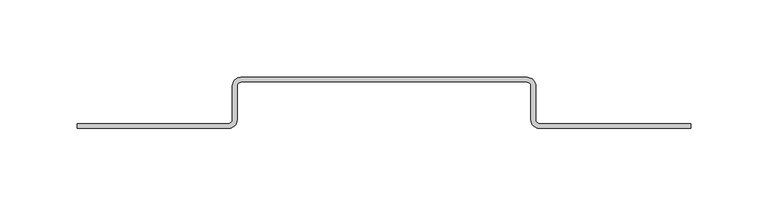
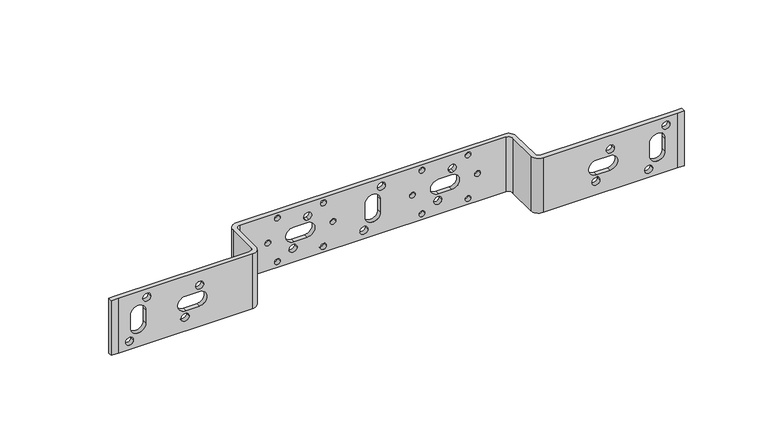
"""IFC4 building model written with IfcOpenShell, lengths in millimetres: proxy geometry, REHAU_RAUTITAN_Bracket O 100 : REHAU_RAUTITAN_Bracket O 100."""

from ifc_helpers import new_model, si_unit, frame, origin, place, context, project, spatial, polyline, circle_curve, source, transform, mapped, element, save
from ifc_brep_helpers import plane_surface, cylinder_surface, revolved_surface, advanced_brep


def mechanical_equipment_b03999f3(model_context):
    return source(origin(), model_context, "Body", "AdvancedBrep", [
        advanced_brep(
        [(92.75, 18.0, 20.0), (-92.25, 18.0, 20.0), (-97.75, 12.5, 20.0), (-97.75, -9.0, 20.0), (-100.75, -12.0, 20.0), (-193.0, -12.0, 20.0), (-198.0, -12.0, 20.0), (-198.0, -15.0, 20.0), (-193.0, -15.0, 20.0), (-100.25, -15.0, 20.0), (-94.75, -9.5, 20.0), (-94.75, 12.0, 20.0), (-91.75, 15.0, 20.0), (92.25, 15.0, 20.0), (95.206459, 11.4907356, 20.0), (95.206459, -9.5, 20.0), (100.706459, -15.0, 20.0), (193.5, -15.0, 20.0), (198.5, -15.0, 20.0), (198.5, -12.0, 20.0), (193.5, -12.0, 20.0), (101.25, -12.0, 20.0), (98.25, -9.0, 20.0), (98.2039497, 13.2102342, 20.0), (92.75, 18.0, -20.0), (98.2039497, 13.2102342, -20.0), (98.25, -9.0, -20.0), (101.25, -12.0, -20.0), (193.5, -12.0, -20.0), (198.5, -12.0, -20.0), (198.5, -15.0, -20.0), (193.5, -15.0, -20.0), (100.706459, -15.0, -20.0), (95.206459, -9.5, -20.0), (95.206459, 11.4907356, -20.0), (92.25, 15.0, -20.0), (-91.75, 15.0, -20.0), (-94.75, 12.0, -20.0), (-94.75, -9.5, -20.0), (-100.25, -15.0, -20.0), (-193.0, -15.0, -20.0), (-198.0, -15.0, -20.0), (-198.0, -12.0, -20.0), (-193.0, -12.0, -20.0), (-100.75, -12.0, -20.0), (-97.75, -9.0, -20.0), (-97.75, 12.5, -20.0), (-92.25, 18.0, -20.0), (-174.0, -15.0, -4.75), (-174.0, -12.0, -4.75), (-184.5, -12.0, -4.75), (-184.5, -15.0, -4.75), (-174.0, -15.0, 4.75), (-174.0, -12.0, 4.75), (-184.5, -15.0, 4.75), (-184.5, -12.0, 4.75), (-176.0, -15.0, 14.0), (-176.0, -12.0, 14.0), (-170.5, -12.0, 14.0), (-170.5, -15.0, 14.0), (-188.0, -15.0, -14.0), (-188.0, -12.0, -14.0), (-182.5, -12.0, -14.0), (-182.5, -15.0, -14.0), (-146.5, -15.0, -5.25), (-146.5, -12.0, -5.25), (-146.5, -12.0, 5.25), (-146.5, -15.0, 5.25), (-137.0, -15.0, -5.25), (-137.0, -12.0, -5.25), (-137.0, -15.0, 5.25), (-137.0, -12.0, 5.25), (-149.5, -15.0, -10.0), (-149.5, -12.0, -10.0), (-144.0, -12.0, -10.0), (-144.0, -15.0, -10.0), (-139.5, -15.0, 10.0), (-139.5, -12.0, 10.0), (-134.0, -12.0, 10.0), (-134.0, -15.0, 10.0), (183.0, -15.0, 14.0), (183.0, -12.0, 14.0), (188.5, -12.0, 14.0), (188.5, -15.0, 14.0), (174.5, -15.0, 4.75), (174.5, -12.0, 4.75), (185.0, -12.0, 4.75), (185.0, -15.0, 4.75), (174.5, -15.0, -4.75), (174.5, -12.0, -4.75), (185.0, -15.0, -4.75), (185.0, -12.0, -4.75), (171.0, -15.0, -14.0), (171.0, -12.0, -14.0), (176.5, -12.0, -14.0), (176.5, -15.0, -14.0), (134.5, -15.0, -10.0), (134.5, -12.0, -10.0), (140.0, -12.0, -10.0), (140.0, -15.0, -10.0), (147.0, -15.0, 5.25), (147.0, -12.0, 5.25), (147.0, -12.0, -5.25), (147.0, -15.0, -5.25), (137.5, -15.0, 5.25), (137.5, -12.0, 5.25), (137.5, -15.0, -5.25), (137.5, -12.0, -5.25), (144.5, -15.0, 10.0), (144.5, -12.0, 10.0), (150.0, -12.0, 10.0), (150.0, -15.0, 10.0), (-67.6599026, 15.0, 15.9099026), (-67.6599026, 18.0, 15.9099026), (-63.6599026, 18.0, 15.9099026), (-63.6599026, 15.0, 15.9099026), (-47.5, 15.0, 10.0), (-47.5, 18.0, 10.0), (-43.8771002, 18.0, 7.3922144), (-43.8771002, 15.0, 7.3922144), (-45.8907058, 15.0, 7.497743), (-45.8907058, 18.0, 7.497743), (-35.8400974, 15.0, 15.9099026), (-35.8400974, 18.0, 15.9099026), (-31.8400974, 18.0, 15.9099026), (-31.8400974, 15.0, 15.9099026), (-29.25, 15.0, 0.0), (-29.25, 18.0, 0.0), (-25.25, 18.0, 0.0), (-25.25, 15.0, 0.0), (-74.25, 15.0, 0.0), (-74.25, 18.0, 0.0), (-70.25, 18.0, 0.0), (-70.25, 15.0, 0.0), (-35.8400974, 15.0, -15.9099026), (-35.8400974, 18.0, -15.9099026), (-31.8400974, 18.0, -15.9099026), (-31.8400974, 15.0, -15.9099026), (-67.6599026, 15.0, -15.9099026), (-67.6599026, 18.0, -15.9099026), (-63.6599026, 18.0, -15.9099026), (-63.6599026, 15.0, -15.9099026), (-8.5, 15.0, -14.0), (-8.5, 18.0, -14.0), (-3.0, 18.0, -14.0), (-3.0, 15.0, -14.0), (5.5, 15.0, -4.75), (5.5, 18.0, -4.75), (-5.0, 18.0, -4.75), (-5.0, 15.0, -4.75), (5.5, 15.0, 4.75), (5.5, 18.0, 4.75), (-5.0, 15.0, 4.75), (-5.0, 18.0, 4.75), (3.5, 15.0, 14.0), (3.5, 18.0, 14.0), (9.0, 18.0, 14.0), (9.0, 15.0, 14.0), (32.3400974, 15.0, 15.9099026), (32.3400974, 18.0, 15.9099026), (36.3400974, 18.0, 15.9099026), (36.3400974, 15.0, 15.9099026), (52.5, 15.0, 10.0), (52.5, 18.0, 10.0), (56.1228998, 18.0, 7.3922144), (56.1228998, 15.0, 7.3922144), (54.1092942, 15.0, 7.497743), (54.1092942, 18.0, 7.497743), (64.1599026, 15.0, 15.9099026), (64.1599026, 18.0, 15.9099026), (68.1599026, 18.0, 15.9099026), (68.1599026, 15.0, 15.9099026), (32.3400974, 15.0, -15.9099026), (32.3400974, 18.0, -15.9099026), (36.3400974, 18.0, -15.9099026), (36.3400974, 15.0, -15.9099026), (64.1599026, 15.0, -15.9099026), (64.1599026, 18.0, -15.9099026), (68.1599026, 18.0, -15.9099026), (68.1599026, 15.0, -15.9099026), (70.75, 15.0, 0.0), (70.75, 18.0, 0.0), (74.75, 18.0, 0.0), (74.75, 15.0, 0.0), (25.75, 15.0, 0.0), (25.75, 18.0, 0.0), (29.75, 18.0, 0.0), (29.75, 15.0, 0.0), (-45.0, 15.0, 5.25), (-45.0, 18.0, 5.25), (-45.0, 18.0, -5.25), (-45.0, 15.0, -5.25), (-54.5, 15.0, 5.25), (-54.5, 18.0, 5.25), (-54.5, 15.0, -5.25), (-54.5, 18.0, -5.25), (55.0, 15.0, 5.25), (55.0, 18.0, 5.25), (55.0, 18.0, -5.25), (55.0, 15.0, -5.25), (45.5, 15.0, 5.25), (45.5, 18.0, 5.25), (45.5, 15.0, -5.25), (45.5, 18.0, -5.25), (42.5, 15.0, -10.0), (42.5, 18.0, -10.0), (48.0, 18.0, -10.0), (48.0, 15.0, -10.0), (-57.5, 15.0, -10.0), (-57.5, 18.0, -10.0), (-52.0, 18.0, -10.0), (-52.0, 15.0, -10.0)],
        [
            (0, 1),
            (1, 2, circle_curve(frame((-92.25, 12.5, 20.0), z_axis=(0.0, 0.0, 1.0), x_axis=(1.0, 0.0, 0.0)), 5.5)),
            (2, 3),
            (3, 4, circle_curve(frame((-100.75, -9.0, 20.0), z_axis=(0.0, 0.0, -1.0), x_axis=(1.0, 0.0, 0.0)), 3.0)),
            (4, 5),
            (5, 6),
            (6, 7),
            (7, 8),
            (8, 9),
            (9, 10, circle_curve(frame((-100.25, -9.5, 20.0), z_axis=(0.0, 0.0, 1.0), x_axis=(1.0, 0.0, 0.0)), 5.5)),
            (10, 11),
            (11, 12, circle_curve(frame((-91.75, 12.0, 20.0), z_axis=(0.0, 0.0, -1.0), x_axis=(1.0, 0.0, 0.0)), 3.0)),
            (12, 13),
            (13, 14, circle_curve(frame((92.25, 12.0, 20.0), z_axis=(0.0, 0.0, -1.0), x_axis=(1.0, 0.0, 0.0)), 3.0)),
            (14, 15),
            (15, 16, circle_curve(frame((100.706459, -9.5, 20.0), z_axis=(0.0, 0.0, 1.0), x_axis=(1.0, 0.0, 0.0)), 5.5)),
            (16, 17),
            (17, 18),
            (18, 19),
            (19, 20),
            (20, 21),
            (21, 22, circle_curve(frame((101.25, -9.0, 20.0), z_axis=(0.0, 0.0, -1.0), x_axis=(1.0, 0.0, 0.0)), 3.0)),
            (22, 23),
            (23, 0, circle_curve(frame((92.75, 12.5, 20.0), z_axis=(0.0, 0.0, 1.0), x_axis=(1.0, 0.0, 0.0)), 5.5)),
            (24, 25, circle_curve(frame((92.75, 12.5, -20.0), z_axis=(0.0, 0.0, -1.0), x_axis=(1.0, 0.0, 0.0)), 5.5)),
            (25, 26),
            (26, 27, circle_curve(frame((101.25, -9.0, -20.0), z_axis=(0.0, 0.0, 1.0), x_axis=(1.0, 0.0, 0.0)), 3.0)),
            (27, 28),
            (28, 29),
            (29, 30),
            (30, 31),
            (31, 32),
            (32, 33, circle_curve(frame((100.706459, -9.5, -20.0), z_axis=(0.0, 0.0, -1.0), x_axis=(1.0, 0.0, 0.0)), 5.5)),
            (33, 34),
            (34, 35, circle_curve(frame((92.25, 12.0, -20.0), z_axis=(0.0, 0.0, 1.0), x_axis=(1.0, 0.0, 0.0)), 3.0)),
            (35, 36),
            (36, 37, circle_curve(frame((-91.75, 12.0, -20.0), z_axis=(0.0, 0.0, 1.0), x_axis=(1.0, 0.0, 0.0)), 3.0)),
            (37, 38),
            (38, 39, circle_curve(frame((-100.25, -9.5, -20.0), z_axis=(0.0, 0.0, -1.0), x_axis=(1.0, 0.0, 0.0)), 5.5)),
            (39, 40),
            (40, 41),
            (41, 42),
            (42, 43),
            (43, 44),
            (44, 45, circle_curve(frame((-100.75, -9.0, -20.0), z_axis=(0.0, 0.0, 1.0), x_axis=(1.0, 0.0, 0.0)), 3.0)),
            (45, 46),
            (46, 47, circle_curve(frame((-92.25, 12.5, -20.0), z_axis=(0.0, 0.0, -1.0), x_axis=(1.0, 0.0, 0.0)), 5.5)),
            (47, 24),
            (48, 49),
            (49, 50, circle_curve(frame((-179.25, -12.0, -4.75), z_axis=(0.0, 1.0, 0.0), x_axis=(-1.0, 0.0, 0.0)), 5.25)),
            (50, 51),
            (51, 48, circle_curve(frame((-179.25, -15.0, -4.75), z_axis=(0.0, -1.0, 0.0), x_axis=(-1.0, 0.0, 0.0)), 5.25)),
            (48, 52),
            (52, 53),
            (53, 49),
            (52, 54, circle_curve(frame((-179.25, -15.0, 4.75), z_axis=(0.0, -1.0, 0.0), x_axis=(-1.0, 0.0, 0.0)), 5.25)),
            (54, 55),
            (55, 53, circle_curve(frame((-179.25, -12.0, 4.75), z_axis=(0.0, 1.0, 0.0), x_axis=(-1.0, 0.0, 0.0)), 5.25)),
            (54, 51),
            (50, 55),
            (56, 57),
            (57, 58, circle_curve(frame((-173.25, -12.0, 14.0), z_axis=(0.0, 1.0, 0.0), x_axis=(-1.0, 0.0, 0.0)), 2.75)),
            (58, 59),
            (59, 56, circle_curve(frame((-173.25, -15.0, 14.0), z_axis=(0.0, -1.0, 0.0), x_axis=(-1.0, 0.0, 0.0)), 2.75)),
            (56, 59, circle_curve(frame((-173.25, -15.0, 14.0), z_axis=(0.0, -1.0, 0.0), x_axis=(-1.0, 0.0, 0.0)), 2.75)),
            (58, 57, circle_curve(frame((-173.25, -12.0, 14.0), z_axis=(0.0, 1.0, 0.0), x_axis=(-1.0, 0.0, 0.0)), 2.75)),
            (60, 61),
            (61, 62, circle_curve(frame((-185.25, -12.0, -14.0), z_axis=(0.0, 1.0, 0.0), x_axis=(-1.0, 0.0, 0.0)), 2.75)),
            (62, 63),
            (63, 60, circle_curve(frame((-185.25, -15.0, -14.0), z_axis=(0.0, -1.0, 0.0), x_axis=(-1.0, 0.0, 0.0)), 2.75)),
            (60, 63, circle_curve(frame((-185.25, -15.0, -14.0), z_axis=(0.0, -1.0, 0.0), x_axis=(-1.0, 0.0, 0.0)), 2.75)),
            (62, 61, circle_curve(frame((-185.25, -12.0, -14.0), z_axis=(0.0, 1.0, 0.0), x_axis=(-1.0, 0.0, 0.0)), 2.75)),
            (64, 65),
            (65, 66, circle_curve(frame((-146.5, -12.0, 0.0), z_axis=(0.0, 1.0, 0.0), x_axis=(-1.0, 0.0, 0.0)), 5.25)),
            (66, 67),
            (67, 64, circle_curve(frame((-146.5, -15.0, 0.0), z_axis=(0.0, -1.0, 0.0), x_axis=(-1.0, 0.0, 0.0)), 5.25)),
            (64, 68),
            (68, 69),
            (69, 65),
            (68, 70, circle_curve(frame((-137.0, -15.0, 0.0), z_axis=(0.0, -1.0, 0.0), x_axis=(-1.0, 0.0, 0.0)), 5.25)),
            (70, 71),
            (71, 69, circle_curve(frame((-137.0, -12.0, 0.0), z_axis=(0.0, 1.0, 0.0), x_axis=(-1.0, 0.0, 0.0)), 5.25)),
            (70, 67),
            (66, 71),
            (72, 73),
            (73, 74, circle_curve(frame((-146.75, -12.0, -10.0), z_axis=(0.0, 1.0, 0.0), x_axis=(-1.0, 0.0, 0.0)), 2.75)),
            (74, 75),
            (75, 72, circle_curve(frame((-146.75, -15.0, -10.0), z_axis=(0.0, -1.0, 0.0), x_axis=(-1.0, 0.0, 0.0)), 2.75)),
            (72, 75, circle_curve(frame((-146.75, -15.0, -10.0), z_axis=(0.0, -1.0, 0.0), x_axis=(-1.0, 0.0, 0.0)), 2.75)),
            (74, 73, circle_curve(frame((-146.75, -12.0, -10.0), z_axis=(0.0, 1.0, 0.0), x_axis=(-1.0, 0.0, 0.0)), 2.75)),
            (76, 77),
            (77, 78, circle_curve(frame((-136.75, -12.0, 10.0), z_axis=(0.0, 1.0, 0.0), x_axis=(-1.0, 0.0, 0.0)), 2.75)),
            (78, 79),
            (79, 76, circle_curve(frame((-136.75, -15.0, 10.0), z_axis=(0.0, -1.0, 0.0), x_axis=(-1.0, 0.0, 0.0)), 2.75)),
            (76, 79, circle_curve(frame((-136.75, -15.0, 10.0), z_axis=(0.0, -1.0, 0.0), x_axis=(-1.0, 0.0, 0.0)), 2.75)),
            (78, 77, circle_curve(frame((-136.75, -12.0, 10.0), z_axis=(0.0, 1.0, 0.0), x_axis=(-1.0, 0.0, 0.0)), 2.75)),
            (80, 81),
            (81, 82, circle_curve(frame((185.75, -12.0, 14.0), z_axis=(0.0, 1.0, 0.0), x_axis=(-1.0, 0.0, 0.0)), 2.75)),
            (82, 83),
            (83, 80, circle_curve(frame((185.75, -15.0, 14.0), z_axis=(0.0, -1.0, 0.0), x_axis=(-1.0, 0.0, 0.0)), 2.75)),
            (80, 83, circle_curve(frame((185.75, -15.0, 14.0), z_axis=(0.0, -1.0, 0.0), x_axis=(-1.0, 0.0, 0.0)), 2.75)),
            (82, 81, circle_curve(frame((185.75, -12.0, 14.0), z_axis=(0.0, 1.0, 0.0), x_axis=(-1.0, 0.0, 0.0)), 2.75)),
            (84, 85),
            (85, 86, circle_curve(frame((179.75, -12.0, 4.75), z_axis=(0.0, 1.0, 0.0), x_axis=(-1.0, 0.0, 0.0)), 5.25)),
            (86, 87),
            (87, 84, circle_curve(frame((179.75, -15.0, 4.75), z_axis=(0.0, -1.0, 0.0), x_axis=(-1.0, 0.0, 0.0)), 5.25)),
            (84, 88),
            (88, 89),
            (89, 85),
            (88, 90, circle_curve(frame((179.75, -15.0, -4.75), z_axis=(0.0, -1.0, 0.0), x_axis=(-1.0, 0.0, 0.0)), 5.25)),
            (90, 91),
            (91, 89, circle_curve(frame((179.75, -12.0, -4.75), z_axis=(0.0, 1.0, 0.0), x_axis=(-1.0, 0.0, 0.0)), 5.25)),
            (90, 87),
            (86, 91),
            (92, 93),
            (93, 94, circle_curve(frame((173.75, -12.0, -14.0), z_axis=(0.0, 1.0, 0.0), x_axis=(-1.0, 0.0, 0.0)), 2.75)),
            (94, 95),
            (95, 92, circle_curve(frame((173.75, -15.0, -14.0), z_axis=(0.0, -1.0, 0.0), x_axis=(-1.0, 0.0, 0.0)), 2.75)),
            (92, 95, circle_curve(frame((173.75, -15.0, -14.0), z_axis=(0.0, -1.0, 0.0), x_axis=(-1.0, 0.0, 0.0)), 2.75)),
            (94, 93, circle_curve(frame((173.75, -12.0, -14.0), z_axis=(0.0, 1.0, 0.0), x_axis=(-1.0, 0.0, 0.0)), 2.75)),
            (96, 97),
            (97, 98, circle_curve(frame((137.25, -12.0, -10.0), z_axis=(0.0, 1.0, 0.0), x_axis=(-1.0, 0.0, 0.0)), 2.75)),
            (98, 99),
            (99, 96, circle_curve(frame((137.25, -15.0, -10.0), z_axis=(0.0, -1.0, 0.0), x_axis=(-1.0, 0.0, 0.0)), 2.75)),
            (96, 99, circle_curve(frame((137.25, -15.0, -10.0), z_axis=(0.0, -1.0, 0.0), x_axis=(-1.0, 0.0, 0.0)), 2.75)),
            (98, 97, circle_curve(frame((137.25, -12.0, -10.0), z_axis=(0.0, 1.0, 0.0), x_axis=(-1.0, 0.0, 0.0)), 2.75)),
            (100, 101),
            (101, 102, circle_curve(frame((147.0, -12.0, 0.0), z_axis=(0.0, 1.0, 0.0), x_axis=(-1.0, 0.0, 0.0)), 5.25)),
            (102, 103),
            (103, 100, circle_curve(frame((147.0, -15.0, 0.0), z_axis=(0.0, -1.0, 0.0), x_axis=(-1.0, 0.0, 0.0)), 5.25)),
            (100, 104),
            (104, 105),
            (105, 101),
            (104, 106, circle_curve(frame((137.5, -15.0, 0.0), z_axis=(0.0, -1.0, 0.0), x_axis=(-1.0, 0.0, 0.0)), 5.25)),
            (106, 107),
            (107, 105, circle_curve(frame((137.5, -12.0, 0.0), z_axis=(0.0, 1.0, 0.0), x_axis=(-1.0, 0.0, 0.0)), 5.25)),
            (106, 103),
            (102, 107),
            (108, 109),
            (109, 110, circle_curve(frame((147.25, -12.0, 10.0), z_axis=(0.0, 1.0, 0.0), x_axis=(-1.0, 0.0, 0.0)), 2.75)),
            (110, 111),
            (111, 108, circle_curve(frame((147.25, -15.0, 10.0), z_axis=(0.0, -1.0, 0.0), x_axis=(-1.0, 0.0, 0.0)), 2.75)),
            (108, 111, circle_curve(frame((147.25, -15.0, 10.0), z_axis=(0.0, -1.0, 0.0), x_axis=(-1.0, 0.0, 0.0)), 2.75)),
            (110, 109, circle_curve(frame((147.25, -12.0, 10.0), z_axis=(0.0, 1.0, 0.0), x_axis=(-1.0, 0.0, 0.0)), 2.75)),
            (112, 113),
            (113, 114, circle_curve(frame((-65.6599026, 18.0, 15.9099026), z_axis=(0.0, 1.0, 0.0), x_axis=(-1.0, 0.0, 0.0)), 2.0)),
            (114, 115),
            (115, 112, circle_curve(frame((-65.6599026, 15.0, 15.9099026), z_axis=(0.0, -1.0, 0.0), x_axis=(-1.0, 0.0, 0.0)), 2.0)),
            (112, 115, circle_curve(frame((-65.6599026, 15.0, 15.9099026), z_axis=(0.0, -1.0, 0.0), x_axis=(-1.0, 0.0, 0.0)), 2.0)),
            (114, 113, circle_curve(frame((-65.6599026, 18.0, 15.9099026), z_axis=(0.0, 1.0, 0.0), x_axis=(-1.0, 0.0, 0.0)), 2.0)),
            (116, 117),
            (117, 118, circle_curve(frame((-44.75, 18.0, 10.0), z_axis=(0.0, 1.0, 0.0), x_axis=(-1.0, 0.0, 0.0)), 2.75)),
            (118, 119),
            (119, 116, circle_curve(frame((-44.75, 15.0, 10.0), z_axis=(0.0, -1.0, 0.0), x_axis=(-1.0, 0.0, 0.0)), 2.75)),
            (116, 120, circle_curve(frame((-44.75, 15.0, 10.0), z_axis=(0.0, -1.0, 0.0), x_axis=(-1.0, 0.0, 0.0)), 2.75)),
            (120, 121),
            (121, 117, circle_curve(frame((-44.75, 18.0, 10.0), z_axis=(0.0, 1.0, 0.0), x_axis=(-1.0, 0.0, 0.0)), 2.75)),
            (120, 119, circle_curve(frame((-44.75, 15.0, 10.0), z_axis=(0.0, -1.0, 0.0), x_axis=(-1.0, 0.0, 0.0)), 2.75)),
            (118, 121, circle_curve(frame((-44.75, 18.0, 10.0), z_axis=(0.0, 1.0, 0.0), x_axis=(-1.0, 0.0, 0.0)), 2.75)),
            (122, 123),
            (123, 124, circle_curve(frame((-33.8400974, 18.0, 15.9099026), z_axis=(0.0, 1.0, 0.0), x_axis=(-1.0, 0.0, 0.0)), 2.0)),
            (124, 125),
            (125, 122, circle_curve(frame((-33.8400974, 15.0, 15.9099026), z_axis=(0.0, -1.0, 0.0), x_axis=(-1.0, 0.0, 0.0)), 2.0)),
            (122, 125, circle_curve(frame((-33.8400974, 15.0, 15.9099026), z_axis=(0.0, -1.0, 0.0), x_axis=(-1.0, 0.0, 0.0)), 2.0)),
            (124, 123, circle_curve(frame((-33.8400974, 18.0, 15.9099026), z_axis=(0.0, 1.0, 0.0), x_axis=(-1.0, 0.0, 0.0)), 2.0)),
            (126, 127),
            (127, 128, circle_curve(frame((-27.25, 18.0, 0.0), z_axis=(0.0, 1.0, 0.0), x_axis=(-1.0, 0.0, 0.0)), 2.0)),
            (128, 129),
            (129, 126, circle_curve(frame((-27.25, 15.0, 0.0), z_axis=(0.0, -1.0, 0.0), x_axis=(-1.0, 0.0, 0.0)), 2.0)),
            (126, 129, circle_curve(frame((-27.25, 15.0, 0.0), z_axis=(0.0, -1.0, 0.0), x_axis=(-1.0, 0.0, 0.0)), 2.0)),
            (128, 127, circle_curve(frame((-27.25, 18.0, 0.0), z_axis=(0.0, 1.0, 0.0), x_axis=(-1.0, 0.0, 0.0)), 2.0)),
            (130, 131),
            (131, 132, circle_curve(frame((-72.25, 18.0, 0.0), z_axis=(0.0, 1.0, 0.0), x_axis=(-1.0, 0.0, 0.0)), 2.0)),
            (132, 133),
            (133, 130, circle_curve(frame((-72.25, 15.0, 0.0), z_axis=(0.0, -1.0, 0.0), x_axis=(-1.0, 0.0, 0.0)), 2.0)),
            (130, 133, circle_curve(frame((-72.25, 15.0, 0.0), z_axis=(0.0, -1.0, 0.0), x_axis=(-1.0, 0.0, 0.0)), 2.0)),
            (132, 131, circle_curve(frame((-72.25, 18.0, 0.0), z_axis=(0.0, 1.0, 0.0), x_axis=(-1.0, 0.0, 0.0)), 2.0)),
            (134, 135),
            (135, 136, circle_curve(frame((-33.8400974, 18.0, -15.9099026), z_axis=(0.0, 1.0, 0.0), x_axis=(-1.0, 0.0, 0.0)), 2.0)),
            (136, 137),
            (137, 134, circle_curve(frame((-33.8400974, 15.0, -15.9099026), z_axis=(0.0, -1.0, 0.0), x_axis=(-1.0, 0.0, 0.0)), 2.0)),
            (134, 137, circle_curve(frame((-33.8400974, 15.0, -15.9099026), z_axis=(0.0, -1.0, 0.0), x_axis=(-1.0, 0.0, 0.0)), 2.0)),
            (136, 135, circle_curve(frame((-33.8400974, 18.0, -15.9099026), z_axis=(0.0, 1.0, 0.0), x_axis=(-1.0, 0.0, 0.0)), 2.0)),
            (138, 139),
            (139, 140, circle_curve(frame((-65.6599026, 18.0, -15.9099026), z_axis=(0.0, 1.0, 0.0), x_axis=(-1.0, 0.0, 0.0)), 2.0)),
            (140, 141),
            (141, 138, circle_curve(frame((-65.6599026, 15.0, -15.9099026), z_axis=(0.0, -1.0, 0.0), x_axis=(-1.0, 0.0, 0.0)), 2.0)),
            (138, 141, circle_curve(frame((-65.6599026, 15.0, -15.9099026), z_axis=(0.0, -1.0, 0.0), x_axis=(-1.0, 0.0, 0.0)), 2.0)),
            (140, 139, circle_curve(frame((-65.6599026, 18.0, -15.9099026), z_axis=(0.0, 1.0, 0.0), x_axis=(-1.0, 0.0, 0.0)), 2.0)),
            (142, 143),
            (143, 144, circle_curve(frame((-5.75, 18.0, -14.0), z_axis=(0.0, 1.0, 0.0), x_axis=(-1.0, 0.0, 0.0)), 2.75)),
            (144, 145),
            (145, 142, circle_curve(frame((-5.75, 15.0, -14.0), z_axis=(0.0, -1.0, 0.0), x_axis=(-1.0, 0.0, 0.0)), 2.75)),
            (142, 145, circle_curve(frame((-5.75, 15.0, -14.0), z_axis=(0.0, -1.0, 0.0), x_axis=(-1.0, 0.0, 0.0)), 2.75)),
            (144, 143, circle_curve(frame((-5.75, 18.0, -14.0), z_axis=(0.0, 1.0, 0.0), x_axis=(-1.0, 0.0, 0.0)), 2.75)),
            (146, 147),
            (147, 148, circle_curve(frame((0.25, 18.0, -4.75), z_axis=(0.0, 1.0, 0.0), x_axis=(-1.0, 0.0, 0.0)), 5.25)),
            (148, 149),
            (149, 146, circle_curve(frame((0.25, 15.0, -4.75), z_axis=(0.0, -1.0, 0.0), x_axis=(-1.0, 0.0, 0.0)), 5.25)),
            (146, 150),
            (150, 151),
            (151, 147),
            (150, 152, circle_curve(frame((0.25, 15.0, 4.75), z_axis=(0.0, -1.0, 0.0), x_axis=(-1.0, 0.0, 0.0)), 5.25)),
            (152, 153),
            (153, 151, circle_curve(frame((0.25, 18.0, 4.75), z_axis=(0.0, 1.0, 0.0), x_axis=(-1.0, 0.0, 0.0)), 5.25)),
            (152, 149),
            (148, 153),
            (154, 155),
            (155, 156, circle_curve(frame((6.25, 18.0, 14.0), z_axis=(0.0, 1.0, 0.0), x_axis=(-1.0, 0.0, 0.0)), 2.75)),
            (156, 157),
            (157, 154, circle_curve(frame((6.25, 15.0, 14.0), z_axis=(0.0, -1.0, 0.0), x_axis=(-1.0, 0.0, 0.0)), 2.75)),
            (154, 157, circle_curve(frame((6.25, 15.0, 14.0), z_axis=(0.0, -1.0, 0.0), x_axis=(-1.0, 0.0, 0.0)), 2.75)),
            (156, 155, circle_curve(frame((6.25, 18.0, 14.0), z_axis=(0.0, 1.0, 0.0), x_axis=(-1.0, 0.0, 0.0)), 2.75)),
            (158, 159),
            (159, 160, circle_curve(frame((34.3400974, 18.0, 15.9099026), z_axis=(0.0, 1.0, 0.0), x_axis=(-1.0, 0.0, 0.0)), 2.0)),
            (160, 161),
            (161, 158, circle_curve(frame((34.3400974, 15.0, 15.9099026), z_axis=(0.0, -1.0, 0.0), x_axis=(-1.0, 0.0, 0.0)), 2.0)),
            (158, 161, circle_curve(frame((34.3400974, 15.0, 15.9099026), z_axis=(0.0, -1.0, 0.0), x_axis=(-1.0, 0.0, 0.0)), 2.0)),
            (160, 159, circle_curve(frame((34.3400974, 18.0, 15.9099026), z_axis=(0.0, 1.0, 0.0), x_axis=(-1.0, 0.0, 0.0)), 2.0)),
            (162, 163),
            (163, 164, circle_curve(frame((55.25, 18.0, 10.0), z_axis=(0.0, 1.0, 0.0), x_axis=(-1.0, 0.0, 0.0)), 2.75)),
            (164, 165),
            (165, 162, circle_curve(frame((55.25, 15.0, 10.0), z_axis=(0.0, -1.0, 0.0), x_axis=(-1.0, 0.0, 0.0)), 2.75)),
            (162, 166, circle_curve(frame((55.25, 15.0, 10.0), z_axis=(0.0, -1.0, 0.0), x_axis=(-1.0, 0.0, 0.0)), 2.75)),
            (166, 167),
            (167, 163, circle_curve(frame((55.25, 18.0, 10.0), z_axis=(0.0, 1.0, 0.0), x_axis=(-1.0, 0.0, 0.0)), 2.75)),
            (166, 165, circle_curve(frame((55.25, 15.0, 10.0), z_axis=(0.0, -1.0, 0.0), x_axis=(-1.0, 0.0, 0.0)), 2.75)),
            (164, 167, circle_curve(frame((55.25, 18.0, 10.0), z_axis=(0.0, 1.0, 0.0), x_axis=(-1.0, 0.0, 0.0)), 2.75)),
            (168, 169),
            (169, 170, circle_curve(frame((66.1599026, 18.0, 15.9099026), z_axis=(0.0, 1.0, 0.0), x_axis=(-1.0, 0.0, 0.0)), 2.0)),
            (170, 171),
            (171, 168, circle_curve(frame((66.1599026, 15.0, 15.9099026), z_axis=(0.0, -1.0, 0.0), x_axis=(-1.0, 0.0, 0.0)), 2.0)),
            (168, 171, circle_curve(frame((66.1599026, 15.0, 15.9099026), z_axis=(0.0, -1.0, 0.0), x_axis=(-1.0, 0.0, 0.0)), 2.0)),
            (170, 169, circle_curve(frame((66.1599026, 18.0, 15.9099026), z_axis=(0.0, 1.0, 0.0), x_axis=(-1.0, 0.0, 0.0)), 2.0)),
            (172, 173),
            (173, 174, circle_curve(frame((34.3400974, 18.0, -15.9099026), z_axis=(0.0, 1.0, 0.0), x_axis=(-1.0, 0.0, 0.0)), 2.0)),
            (174, 175),
            (175, 172, circle_curve(frame((34.3400974, 15.0, -15.9099026), z_axis=(0.0, -1.0, 0.0), x_axis=(-1.0, 0.0, 0.0)), 2.0)),
            (172, 175, circle_curve(frame((34.3400974, 15.0, -15.9099026), z_axis=(0.0, -1.0, 0.0), x_axis=(-1.0, 0.0, 0.0)), 2.0)),
            (174, 173, circle_curve(frame((34.3400974, 18.0, -15.9099026), z_axis=(0.0, 1.0, 0.0), x_axis=(-1.0, 0.0, 0.0)), 2.0)),
            (176, 177),
            (177, 178, circle_curve(frame((66.1599026, 18.0, -15.9099026), z_axis=(0.0, 1.0, 0.0), x_axis=(-1.0, 0.0, 0.0)), 2.0)),
            (178, 179),
            (179, 176, circle_curve(frame((66.1599026, 15.0, -15.9099026), z_axis=(0.0, -1.0, 0.0), x_axis=(-1.0, 0.0, 0.0)), 2.0)),
            (176, 179, circle_curve(frame((66.1599026, 15.0, -15.9099026), z_axis=(0.0, -1.0, 0.0), x_axis=(-1.0, 0.0, 0.0)), 2.0)),
            (178, 177, circle_curve(frame((66.1599026, 18.0, -15.9099026), z_axis=(0.0, 1.0, 0.0), x_axis=(-1.0, 0.0, 0.0)), 2.0)),
            (180, 181),
            (181, 182, circle_curve(frame((72.75, 18.0, 0.0), z_axis=(0.0, 1.0, 0.0), x_axis=(-1.0, 0.0, 0.0)), 2.0)),
            (182, 183),
            (183, 180, circle_curve(frame((72.75, 15.0, 0.0), z_axis=(0.0, -1.0, 0.0), x_axis=(-1.0, 0.0, 0.0)), 2.0)),
            (180, 183, circle_curve(frame((72.75, 15.0, 0.0), z_axis=(0.0, -1.0, 0.0), x_axis=(-1.0, 0.0, 0.0)), 2.0)),
            (182, 181, circle_curve(frame((72.75, 18.0, 0.0), z_axis=(0.0, 1.0, 0.0), x_axis=(-1.0, 0.0, 0.0)), 2.0)),
            (184, 185),
            (185, 186, circle_curve(frame((27.75, 18.0, 0.0), z_axis=(0.0, 1.0, 0.0), x_axis=(-1.0, 0.0, 0.0)), 2.0)),
            (186, 187),
            (187, 184, circle_curve(frame((27.75, 15.0, 0.0), z_axis=(0.0, -1.0, 0.0), x_axis=(-1.0, 0.0, 0.0)), 2.0)),
            (184, 187, circle_curve(frame((27.75, 15.0, 0.0), z_axis=(0.0, -1.0, 0.0), x_axis=(-1.0, 0.0, 0.0)), 2.0)),
            (186, 185, circle_curve(frame((27.75, 18.0, 0.0), z_axis=(0.0, 1.0, 0.0), x_axis=(-1.0, 0.0, 0.0)), 2.0)),
            (188, 189),
            (189, 190, circle_curve(frame((-45.0, 18.0, 0.0), z_axis=(0.0, 1.0, 0.0), x_axis=(-1.0, 0.0, 0.0)), 5.25)),
            (190, 191),
            (191, 188, circle_curve(frame((-45.0, 15.0, 0.0), z_axis=(0.0, -1.0, 0.0), x_axis=(-1.0, 0.0, 0.0)), 5.25)),
            (188, 192),
            (192, 193),
            (193, 189),
            (192, 194, circle_curve(frame((-54.5, 15.0, 0.0), z_axis=(0.0, -1.0, 0.0), x_axis=(-1.0, 0.0, 0.0)), 5.25)),
            (194, 195),
            (195, 193, circle_curve(frame((-54.5, 18.0, 0.0), z_axis=(0.0, 1.0, 0.0), x_axis=(-1.0, 0.0, 0.0)), 5.25)),
            (194, 191),
            (190, 195),
            (196, 197),
            (197, 198, circle_curve(frame((55.0, 18.0, 0.0), z_axis=(0.0, 1.0, 0.0), x_axis=(-1.0, 0.0, 0.0)), 5.25)),
            (198, 199),
            (199, 196, circle_curve(frame((55.0, 15.0, 0.0), z_axis=(0.0, -1.0, 0.0), x_axis=(-1.0, 0.0, 0.0)), 5.25)),
            (196, 200),
            (200, 201),
            (201, 197),
            (200, 202, circle_curve(frame((45.5, 15.0, 0.0), z_axis=(0.0, -1.0, 0.0), x_axis=(-1.0, 0.0, 0.0)), 5.25)),
            (202, 203),
            (203, 201, circle_curve(frame((45.5, 18.0, 0.0), z_axis=(0.0, 1.0, 0.0), x_axis=(-1.0, 0.0, 0.0)), 5.25)),
            (202, 199),
            (198, 203),
            (204, 205),
            (205, 206, circle_curve(frame((45.25, 18.0, -10.0), z_axis=(0.0, 1.0, 0.0), x_axis=(-1.0, 0.0, 0.0)), 2.75)),
            (206, 207),
            (207, 204, circle_curve(frame((45.25, 15.0, -10.0), z_axis=(0.0, -1.0, 0.0), x_axis=(-1.0, 0.0, 0.0)), 2.75)),
            (204, 207, circle_curve(frame((45.25, 15.0, -10.0), z_axis=(0.0, -1.0, 0.0), x_axis=(-1.0, 0.0, 0.0)), 2.75)),
            (206, 205, circle_curve(frame((45.25, 18.0, -10.0), z_axis=(0.0, 1.0, 0.0), x_axis=(-1.0, 0.0, 0.0)), 2.75)),
            (208, 209),
            (209, 210, circle_curve(frame((-54.75, 18.0, -10.0), z_axis=(0.0, 1.0, 0.0), x_axis=(-1.0, 0.0, 0.0)), 2.75)),
            (210, 211),
            (211, 208, circle_curve(frame((-54.75, 15.0, -10.0), z_axis=(0.0, -1.0, 0.0), x_axis=(-1.0, 0.0, 0.0)), 2.75)),
            (208, 211, circle_curve(frame((-54.75, 15.0, -10.0), z_axis=(0.0, -1.0, 0.0), x_axis=(-1.0, 0.0, 0.0)), 2.75)),
            (210, 209, circle_curve(frame((-54.75, 18.0, -10.0), z_axis=(0.0, 1.0, 0.0), x_axis=(-1.0, 0.0, 0.0)), 2.75)),
            (0, 24),
            (47, 1),
            (46, 2),
            (45, 3),
            (44, 4),
            (43, 5),
            (42, 6),
            (41, 7),
            (40, 8),
            (39, 9),
            (38, 10),
            (37, 11),
            (36, 12),
            (35, 13),
            (34, 14),
            (33, 15),
            (32, 16),
            (31, 17),
            (30, 18),
            (29, 19),
            (28, 20),
            (27, 21),
            (26, 22),
            (25, 23),
        ],
        [
            plane_surface(frame((92.75, 18.0, 20.0), z_axis=(0.0, 0.0, 1.0), x_axis=(-1.0, 0.0, 0.0))),
            plane_surface(frame((92.75, 18.0, -20.0), z_axis=(0.0, 0.0, -1.0), x_axis=(1.0, 0.0, 0.0))),
            revolved_surface(polyline([(-184.5, -12.0, -4.75), (-184.5, -15.0, -4.75)]), (-179.25, -15.0, -4.75), (0.0, 1.0, 0.0)),
            plane_surface(frame((-174.0, 18.0, 4.75), z_axis=(-1.0, 0.0, 0.0), x_axis=(0.0, -1.0, 0.0))),
            revolved_surface(polyline([(-184.5, -12.0, 4.75), (-184.5, -15.0, 4.75)]), (-179.25, -15.0, 4.75), (0.0, 1.0, 0.0)),
            plane_surface(frame((-184.5, 18.0, -4.75), z_axis=(1.0, 0.0, 0.0), x_axis=(0.0, -1.0, 0.0))),
            revolved_surface(polyline([(-176.0, -12.0, 14.0), (-176.0, -15.0, 14.0)]), (-173.25, 15.0, 14.0), (0.0, 1.0, 0.0)),
            revolved_surface(polyline([(-188.0, -12.0, -14.0), (-188.0, -15.0, -14.0)]), (-185.25, 15.0, -14.0), (0.0, 1.0, 0.0)),
            revolved_surface(polyline([(-151.75, -12.0, 0.0), (-151.75, -15.0, 0.0)]), (-146.5, 15.0, 0.0), (0.0, 1.0, 0.0)),
            plane_surface(frame((-137.0, 18.0, -5.25), z_axis=(0.0, 0.0, 1.0), x_axis=(0.0, -1.0, 0.0))),
            revolved_surface(polyline([(-142.25, -12.0, 0.0), (-142.25, -15.0, 0.0)]), (-137.0, 15.0, 0.0), (0.0, 1.0, 0.0)),
            plane_surface(frame((-146.5, 18.0, 5.25), z_axis=(0.0, 0.0, -1.0), x_axis=(0.0, -1.0, 0.0))),
            revolved_surface(polyline([(-149.5, -12.0, -10.0), (-149.5, -15.0, -10.0)]), (-146.75, 15.0, -10.0), (0.0, 1.0, 0.0)),
            revolved_surface(polyline([(-139.5, -12.0, 10.0), (-139.5, -15.0, 10.0)]), (-136.75, 15.0, 10.0), (0.0, 1.0, 0.0)),
            revolved_surface(polyline([(183.0, -12.0, 14.0), (183.0, -15.0, 14.0)]), (185.75, 15.0, 14.0), (0.0, 1.0, 0.0)),
            revolved_surface(polyline([(174.5, -12.0, 4.75), (174.5, -15.0, 4.75)]), (179.75, 15.0, 4.75), (0.0, 1.0, 0.0)),
            plane_surface(frame((174.5, 18.0, -4.75), z_axis=(1.0, 0.0, 0.0), x_axis=(0.0, -1.0, 0.0))),
            revolved_surface(polyline([(174.5, -12.0, -4.75), (174.5, -15.0, -4.75)]), (179.75, 15.0, -4.75), (0.0, 1.0, 0.0)),
            plane_surface(frame((185.0, 18.0, 4.75), z_axis=(-1.0, 0.0, 0.0), x_axis=(0.0, -1.0, 0.0))),
            revolved_surface(polyline([(171.0, -12.0, -14.0), (171.0, -15.0, -14.0)]), (173.75, 15.0, -14.0), (0.0, 1.0, 0.0)),
            revolved_surface(polyline([(134.5, -12.0, -10.0), (134.5, -15.0, -10.0)]), (137.25, 15.0, -10.0), (0.0, 1.0, 0.0)),
            revolved_surface(polyline([(141.75, -12.0, 0.0), (141.75, -15.0, 0.0)]), (147.0, 15.0, 0.0), (0.0, 1.0, 0.0)),
            plane_surface(frame((137.5, 18.0, 5.25), z_axis=(0.0, 0.0, -1.0), x_axis=(0.0, -1.0, 0.0))),
            revolved_surface(polyline([(132.25, -12.0, 0.0), (132.25, -15.0, 0.0)]), (137.5, 15.0, 0.0), (0.0, 1.0, 0.0)),
            plane_surface(frame((147.0, 18.0, -5.25), z_axis=(0.0, 0.0, 1.0), x_axis=(0.0, -1.0, 0.0))),
            revolved_surface(polyline([(144.5, -12.0, 10.0), (144.5, -15.0, 10.0)]), (147.25, 15.0, 10.0), (0.0, 1.0, 0.0)),
            revolved_surface(polyline([(-67.6599026, 18.0, 15.9099026), (-67.6599026, 15.0, 15.9099026)]), (-65.6599026, 15.0, 15.9099026), (0.0, 1.0, 0.0)),
            revolved_surface(polyline([(-47.5, 18.0, 10.0), (-47.5, 15.0, 10.0)]), (-44.75, 15.0, 10.0), (0.0, 1.0, 0.0)),
            revolved_surface(polyline([(-35.8400974, 18.0, 15.9099026), (-35.8400974, 15.0, 15.9099026)]), (-33.8400974, 15.0, 15.9099026), (0.0, 1.0, 0.0)),
            revolved_surface(polyline([(-29.25, 18.0, 0.0), (-29.25, 15.0, 0.0)]), (-27.25, 15.0, 0.0), (0.0, 1.0, 0.0)),
            revolved_surface(polyline([(-74.25, 18.0, 0.0), (-74.25, 15.0, 0.0)]), (-72.25, 15.0, 0.0), (0.0, 1.0, 0.0)),
            revolved_surface(polyline([(-35.8400974, 18.0, -15.9099026), (-35.8400974, 15.0, -15.9099026)]), (-33.8400974, 15.0, -15.9099026), (0.0, 1.0, 0.0)),
            revolved_surface(polyline([(-67.6599026, 18.0, -15.9099026), (-67.6599026, 15.0, -15.9099026)]), (-65.6599026, 15.0, -15.9099026), (0.0, 1.0, 0.0)),
            revolved_surface(polyline([(-8.5, 18.0, -14.0), (-8.5, 15.0, -14.0)]), (-5.75, 15.0, -14.0), (0.0, 1.0, 0.0)),
            revolved_surface(polyline([(-5.0, 18.0, -4.75), (-5.0, 15.0, -4.75)]), (0.25, 15.0, -4.75), (0.0, 1.0, 0.0)),
            plane_surface(frame((5.5, 18.0, 4.75), z_axis=(-1.0, 0.0, 0.0), x_axis=(0.0, -1.0, 0.0))),
            revolved_surface(polyline([(-5.0, 18.0, 4.75), (-5.0, 15.0, 4.75)]), (0.25, 15.0, 4.75), (0.0, 1.0, 0.0)),
            plane_surface(frame((-5.0, 18.0, -4.75), z_axis=(1.0, 0.0, 0.0), x_axis=(0.0, -1.0, 0.0))),
            revolved_surface(polyline([(3.5, 18.0, 14.0), (3.5, 15.0, 14.0)]), (6.25, 15.0, 14.0), (0.0, 1.0, 0.0)),
            revolved_surface(polyline([(32.3400974, 18.0, 15.9099026), (32.3400974, 15.0, 15.9099026)]), (34.3400974, 15.0, 15.9099026), (0.0, 1.0, 0.0)),
            revolved_surface(polyline([(52.5, 18.0, 10.0), (52.5, 15.0, 10.0)]), (55.25, 15.0, 10.0), (0.0, 1.0, 0.0)),
            revolved_surface(polyline([(64.1599026, 18.0, 15.9099026), (64.1599026, 15.0, 15.9099026)]), (66.1599026, 15.0, 15.9099026), (0.0, 1.0, 0.0)),
            revolved_surface(polyline([(32.3400974, 18.0, -15.9099026), (32.3400974, 15.0, -15.9099026)]), (34.3400974, 15.0, -15.9099026), (0.0, 1.0, 0.0)),
            revolved_surface(polyline([(64.1599026, 18.0, -15.9099026), (64.1599026, 15.0, -15.9099026)]), (66.1599026, 15.0, -15.9099026), (0.0, 1.0, 0.0)),
            revolved_surface(polyline([(70.75, 18.0, 0.0), (70.75, 15.0, 0.0)]), (72.75, 15.0, 0.0), (0.0, 1.0, 0.0)),
            revolved_surface(polyline([(25.75, 18.0, 0.0), (25.75, 15.0, 0.0)]), (27.75, 15.0, 0.0), (0.0, 1.0, 0.0)),
            revolved_surface(polyline([(-50.25, 18.0, 0.0), (-50.25, 15.0, 0.0)]), (-45.0, 15.0, 0.0), (0.0, 1.0, 0.0)),
            plane_surface(frame((-54.5, 18.0, 5.25), z_axis=(0.0, 0.0, -1.0), x_axis=(0.0, -1.0, 0.0))),
            revolved_surface(polyline([(-59.75, 18.0, 0.0), (-59.75, 15.0, 0.0)]), (-54.5, 15.0, 0.0), (0.0, 1.0, 0.0)),
            plane_surface(frame((-45.0, 18.0, -5.25), z_axis=(0.0, 0.0, 1.0), x_axis=(0.0, -1.0, 0.0))),
            revolved_surface(polyline([(49.75, 18.0, 0.0), (49.75, 15.0, 0.0)]), (55.0, 15.0, 0.0), (0.0, 1.0, 0.0)),
            plane_surface(frame((45.5, 18.0, 5.25), z_axis=(0.0, 0.0, -1.0), x_axis=(0.0, -1.0, 0.0))),
            revolved_surface(polyline([(40.25, 18.0, 0.0), (40.25, 15.0, 0.0)]), (45.5, 15.0, 0.0), (0.0, 1.0, 0.0)),
            plane_surface(frame((55.0, 18.0, -5.25), z_axis=(0.0, 0.0, 1.0), x_axis=(0.0, -1.0, 0.0))),
            revolved_surface(polyline([(42.5, 18.0, -10.0), (42.5, 15.0, -10.0)]), (45.25, 15.0, -10.0), (0.0, 1.0, 0.0)),
            revolved_surface(polyline([(-57.5, 18.0, -10.0), (-57.5, 15.0, -10.0)]), (-54.75, 15.0, -10.0), (0.0, 1.0, 0.0)),
            plane_surface(frame((92.75, 18.0, 20.0), z_axis=(0.0, 1.0, 0.0), x_axis=(0.0, 0.0, -1.0))),
            cylinder_surface(frame((-92.25, 12.5, -20.0), z_axis=(0.0, 0.0, 1.0), x_axis=(1.0, 0.0, 0.0)), 5.5),
            plane_surface(frame((-97.75, 12.5, 20.0), z_axis=(-1.0, 0.0, 0.0), x_axis=(0.0, 0.0, -1.0))),
            revolved_surface(polyline([(-97.75, -9.0, -20.0), (-97.75, -9.0, 20.0)]), (-100.75, -9.0, -20.0), (0.0, 0.0, -1.0)),
            plane_surface(frame((-100.75, -12.0, 20.0), z_axis=(0.0, 1.0, 0.0), x_axis=(0.0, 0.0, -1.0))),
            plane_surface(frame((-193.0, -12.0, 20.0), z_axis=(0.0, 1.0, 0.0), x_axis=(0.0, 0.0, -1.0))),
            plane_surface(frame((-198.0, -12.0, 20.0), z_axis=(-1.0, 0.0, 0.0), x_axis=(0.0, 0.0, -1.0))),
            plane_surface(frame((-198.0, -15.0, 20.0), z_axis=(0.0, -1.0, 0.0), x_axis=(0.0, 0.0, -1.0))),
            plane_surface(frame((-193.0, -15.0, 20.0), z_axis=(0.0, -1.0, 0.0), x_axis=(0.0, 0.0, -1.0))),
            cylinder_surface(frame((-100.25, -9.5, -20.0), z_axis=(0.0, 0.0, 1.0), x_axis=(1.0, 0.0, 0.0)), 5.5),
            plane_surface(frame((-94.75, -9.5, 20.0), z_axis=(1.0, 0.0, 0.0), x_axis=(0.0, 0.0, -1.0))),
            revolved_surface(polyline([(-88.75, 12.0, -20.0), (-88.75, 12.0, 20.0)]), (-91.75, 12.0, -20.0), (0.0, 0.0, -1.0)),
            plane_surface(frame((-91.75, 15.0, 20.0), z_axis=(0.0, -1.0, 0.0), x_axis=(0.0, 0.0, -1.0))),
            revolved_surface(polyline([(95.25, 12.0, -20.0), (95.25, 12.0, 20.0)]), (92.25, 12.0, -20.0), (0.0, 0.0, -1.0)),
            plane_surface(frame((95.206459, 11.4907356, 20.0), z_axis=(-1.0, 0.0, 0.0), x_axis=(0.0, 0.0, -1.0))),
            cylinder_surface(frame((100.706459, -9.5, -20.0), z_axis=(0.0, 0.0, 1.0), x_axis=(1.0, 0.0, 0.0)), 5.5),
            plane_surface(frame((100.706459, -15.0, 20.0), z_axis=(0.0, -1.0, 0.0), x_axis=(0.0, 0.0, -1.0))),
            plane_surface(frame((193.5, -15.0, 20.0), z_axis=(0.0, -1.0, 0.0), x_axis=(0.0, 0.0, -1.0))),
            plane_surface(frame((198.5, -15.0, 20.0), z_axis=(1.0, 0.0, 0.0), x_axis=(0.0, 0.0, -1.0))),
            plane_surface(frame((198.5, -12.0, 20.0), z_axis=(0.0, 1.0, 0.0), x_axis=(0.0, 0.0, -1.0))),
            plane_surface(frame((193.5, -12.0, 20.0), z_axis=(0.0, 1.0, 0.0), x_axis=(0.0, 0.0, -1.0))),
            revolved_surface(polyline([(104.25, -9.0, -20.0), (104.25, -9.0, 20.0)]), (101.25, -9.0, -20.0), (0.0, 0.0, -1.0)),
            plane_surface(frame((98.25, -9.0, 20.0), z_axis=(0.9999978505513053, 0.0020733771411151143, 0.0), x_axis=(0.0, 0.0, -1.0))),
            cylinder_surface(frame((92.75, 12.5, -20.0), z_axis=(0.0, 0.0, 1.0), x_axis=(1.0, 0.0, 0.0)), 5.5),
        ],
        [
            (0, [[1, 2, 3, 4, 5, 6, 7, 8, 9, 10, 11, 12, 13, 14, 15, 16, 17, 18, 19, 20, 21, 22, 23, 24]]),
            (1, [[25, 26, 27, 28, 29, 30, 31, 32, 33, 34, 35, 36, 37, 38, 39, 40, 41, 42, 43, 44, 45, 46, 47, 48]]),
            (2, [[49, 50, 51, 52]]),
            (3, [[-49, 53, 54, 55]]),
            (4, [[-54, 56, 57, 58]]),
            (5, [[-57, 59, -51, 60]]),
            (6, [[61, 62, 63, 64]]),
            (6, [[-61, 65, -63, 66]]),
            (7, [[67, 68, 69, 70]]),
            (7, [[-67, 71, -69, 72]]),
            (8, [[73, 74, 75, 76]]),
            (9, [[-73, 77, 78, 79]]),
            (10, [[-78, 80, 81, 82]]),
            (11, [[-81, 83, -75, 84]]),
            (12, [[85, 86, 87, 88]]),
            (12, [[-85, 89, -87, 90]]),
            (13, [[91, 92, 93, 94]]),
            (13, [[-91, 95, -93, 96]]),
            (14, [[97, 98, 99, 100]]),
            (14, [[-97, 101, -99, 102]]),
            (15, [[103, 104, 105, 106]]),
            (16, [[-103, 107, 108, 109]]),
            (17, [[-108, 110, 111, 112]]),
            (18, [[-111, 113, -105, 114]]),
            (19, [[115, 116, 117, 118]]),
            (19, [[-115, 119, -117, 120]]),
            (20, [[121, 122, 123, 124]]),
            (20, [[-121, 125, -123, 126]]),
            (21, [[127, 128, 129, 130]]),
            (22, [[-127, 131, 132, 133]]),
            (23, [[-132, 134, 135, 136]]),
            (24, [[-135, 137, -129, 138]]),
            (25, [[139, 140, 141, 142]]),
            (25, [[-139, 143, -141, 144]]),
            (26, [[145, 146, 147, 148]]),
            (26, [[-145, 149, -147, 150]]),
            (27, [[151, 152, 153, 154]]),
            (27, [[-151, 155, 156, 157]]),
            (27, [[-156, 158, -153, 159]]),
            (28, [[160, 161, 162, 163]]),
            (28, [[-160, 164, -162, 165]]),
            (29, [[166, 167, 168, 169]]),
            (29, [[-166, 170, -168, 171]]),
            (30, [[172, 173, 174, 175]]),
            (30, [[-172, 176, -174, 177]]),
            (31, [[178, 179, 180, 181]]),
            (31, [[-178, 182, -180, 183]]),
            (32, [[184, 185, 186, 187]]),
            (32, [[-184, 188, -186, 189]]),
            (33, [[190, 191, 192, 193]]),
            (33, [[-190, 194, -192, 195]]),
            (34, [[196, 197, 198, 199]]),
            (35, [[-196, 200, 201, 202]]),
            (36, [[-201, 203, 204, 205]]),
            (37, [[-204, 206, -198, 207]]),
            (38, [[208, 209, 210, 211]]),
            (38, [[-208, 212, -210, 213]]),
            (39, [[214, 215, 216, 217]]),
            (39, [[-214, 218, -216, 219]]),
            (40, [[220, 221, 222, 223]]),
            (40, [[-220, 224, 225, 226]]),
            (40, [[-225, 227, -222, 228]]),
            (41, [[229, 230, 231, 232]]),
            (41, [[-229, 233, -231, 234]]),
            (42, [[235, 236, 237, 238]]),
            (42, [[-235, 239, -237, 240]]),
            (43, [[241, 242, 243, 244]]),
            (43, [[-241, 245, -243, 246]]),
            (44, [[247, 248, 249, 250]]),
            (44, [[-247, 251, -249, 252]]),
            (45, [[253, 254, 255, 256]]),
            (45, [[-253, 257, -255, 258]]),
            (46, [[259, 260, 261, 262]]),
            (47, [[-259, 263, 264, 265]]),
            (48, [[-264, 266, 267, 268]]),
            (49, [[-267, 269, -261, 270]]),
            (50, [[271, 272, 273, 274]]),
            (51, [[-271, 275, 276, 277]]),
            (52, [[-276, 278, 279, 280]]),
            (53, [[-279, 281, -273, 282]]),
            (54, [[283, 284, 285, 286]]),
            (54, [[-283, 287, -285, 288]]),
            (55, [[289, 290, 291, 292]]),
            (55, [[-289, 293, -291, 294]]),
            (56, [[-1, 295, -48, 296], [-146, -150], [-152, -157, -159], [-161, -165], [-167, -171], [-173, -177], [-179, -183], [-185, -189], [-191, -195], [-197, -202, -205, -207], [-209, -213], [-215, -219], [-221, -226, -228], [-230, -234], [-236, -240], [-242, -246], [-248, -252], [-254, -258], [-260, -265, -268, -270], [-272, -277, -280, -282], [-284, -288], [-290, -294]]),
            (57, [[-2, -296, -47, 297]]),
            (58, [[-3, -297, -46, 298]]),
            (59, [[-4, -298, -45, 299]]),
            (60, [[-5, -299, -44, 300], [-50, -55, -58, -60], [-62, -66], [-68, -72], [-74, -79, -82, -84], [-86, -90], [-92, -96]]),
            (61, [[-6, -300, -43, 301]]),
            (62, [[-7, -301, -42, 302]]),
            (63, [[-8, -302, -41, 303]]),
            (64, [[-9, -303, -40, 304], [-52, -59, -56, -53], [-64, -65], [-70, -71], [-76, -83, -80, -77], [-88, -89], [-94, -95]]),
            (65, [[-10, -304, -39, 305]]),
            (66, [[-11, -305, -38, 306]]),
            (67, [[-12, -306, -37, 307]]),
            (68, [[-13, -307, -36, 308], [-148, -149], [-154, -158, -155], [-163, -164], [-169, -170], [-175, -176], [-181, -182], [-187, -188], [-193, -194], [-199, -206, -203, -200], [-211, -212], [-217, -218], [-223, -227, -224], [-232, -233], [-238, -239], [-244, -245], [-250, -251], [-256, -257], [-262, -269, -266, -263], [-274, -281, -278, -275], [-286, -287], [-292, -293]]),
            (69, [[-14, -308, -35, 309]]),
            (70, [[-15, -309, -34, 310]]),
            (71, [[-16, -310, -33, 311]]),
            (72, [[-17, -311, -32, 312], [-100, -101], [-106, -113, -110, -107], [-118, -119], [-124, -125], [-130, -137, -134, -131], [-142, -143]]),
            (73, [[-18, -312, -31, 313]]),
            (74, [[-19, -313, -30, 314]]),
            (75, [[-20, -314, -29, 315]]),
            (76, [[-21, -315, -28, 316], [-98, -102], [-104, -109, -112, -114], [-116, -120], [-122, -126], [-128, -133, -136, -138], [-140, -144]]),
            (77, [[-22, -316, -27, 317]]),
            (78, [[-23, -317, -26, 318]]),
            (79, [[-24, -318, -25, -295]]),
        ],
    ),
    ])


if __name__ == "__main__":
    model = new_model("IFC4")
    model_context = context("Model", 3, world=origin())
    ifc_project = project(units=[si_unit("LENGTHUNIT", "METRE", prefix="MILLI")], contexts=[model_context])
    site = spatial("IfcSite", under=ifc_project)
    building = spatial("IfcBuilding", under=site)
    placement = place(None, origin())
    mechanical_equipment_shape = mechanical_equipment_b03999f3(model_context)
    element("IfcBuildingElementProxy", 1, Name="REHAU_RAUTITAN_Bracket O 100 : REHAU_RAUTITAN_Bracket O 100", ObjectType="REHAU_RAUTITAN_Bracket O 100 : REHAU_RAUTITAN_Bracket O 100", at=placement, inside=building, context=model_context, shape_type="MappedRepresentation", body=[
        mapped(mechanical_equipment_shape, transform((0.0, 0.0, 0.0), x_axis=(1.0, 0.0, 0.0), y_axis=(0.0, 1.0, 0.0), z_axis=(0.0, 0.0, 1.0))),
    ])
    save(model, "model.ifc")
